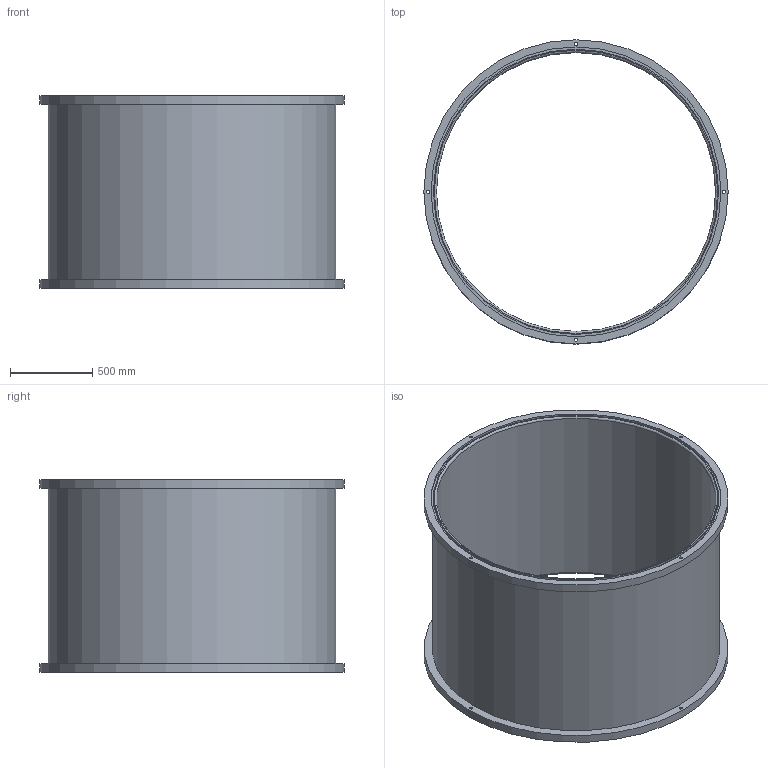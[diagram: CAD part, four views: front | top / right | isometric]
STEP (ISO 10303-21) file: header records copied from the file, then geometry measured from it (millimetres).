
FILE_DESCRIPTION( ( 'Unknown' ), '1' );
FILE_NAME( 'C:/Users/Lee/Documents/HGC Work/Solid Edge/heavy_gas_cherenkov_v5/step/vessel.stp', 'Unknown', ( 'Unknown' ), ( 'Unknown' ), 'PSStep 13.0', 'Unknown', ' ' );
FILE_SCHEMA( ( 'AUTOMOTIVE_DESIGN { 1 0 10303 214 1 1 1 1 }' ) );
Length unit declared in the file: millimetre
Products named in the file (1): 1
Bounding box: 1852.4 x 1852.4 x 1171.37 mm (x, y, z)
Volume: 188035550.4 mm3; surface area: 14397719.5 mm2
Topology: 1 solids, 1 shells, 26 faces, 62 edges, 44 vertices
Faces by surface type: cylinder 16, plane 8, torus 2
Full cylindrical faces by diameter (mm): 19.05 x8, 1700 x1, 1736.6 x2, 1750.8 x1, 1765 x2, 1852.4 x2
Entity records: 864 total; most frequent: DIRECTION 122, CARTESIAN_POINT 95, EDGE_LOOP 68, ORIENTED_EDGE 68, AXIS2_PLACEMENT_3D 61, FACE_OUTER_BOUND 44, EDGE_CURVE 34, VERTEX_POINT 34
